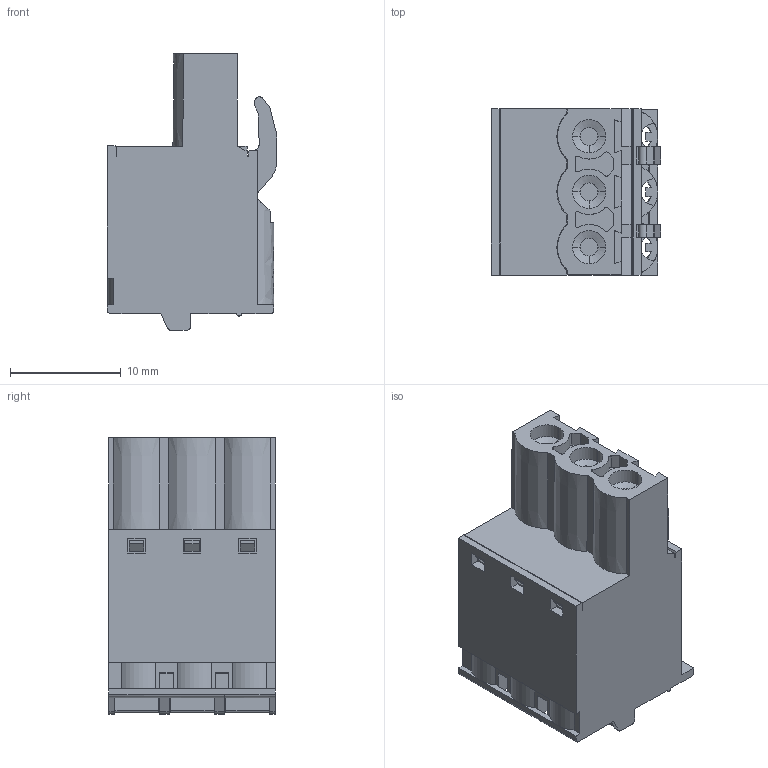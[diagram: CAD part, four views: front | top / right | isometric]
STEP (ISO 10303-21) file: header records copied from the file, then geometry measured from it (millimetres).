
FILE_DESCRIPTION(('FreeCAD Model'),'2;1');
FILE_NAME('Open CASCADE Shape Model','2023-04-26T12:11:29',('Author'),( ''),'Open CASCADE STEP processor 7.6','FreeCAD','Unknown');
FILE_SCHEMA(('AUTOMOTIVE_DESIGN { 1 0 10303 214 1 1 1 1 }'));
Length unit declared in the file: millimetre
Products named in the file (1): BR1703-FM
Bounding box: 15.25 x 15 x 24.95 mm (x, y, z)
Surface area: 3672.4 mm2 (no closed solid volume)
Topology: 0 solids, 1 shells, 624 faces, 1800 edges, 1168 vertices
Faces by surface type: plane 514, bspline 75, cone 18, cylinder 17
Full cylindrical faces by diameter (mm): 4 x2
Entity records: 47244 total; most frequent: CARTESIAN_POINT 12433, DIRECTION 6097, LINE 4467, VECTOR 4467, ORIENTED_EDGE 3596, PCURVE 3596, DEFINITIONAL_REPRESENTATION 3596, EDGE_CURVE 1800
